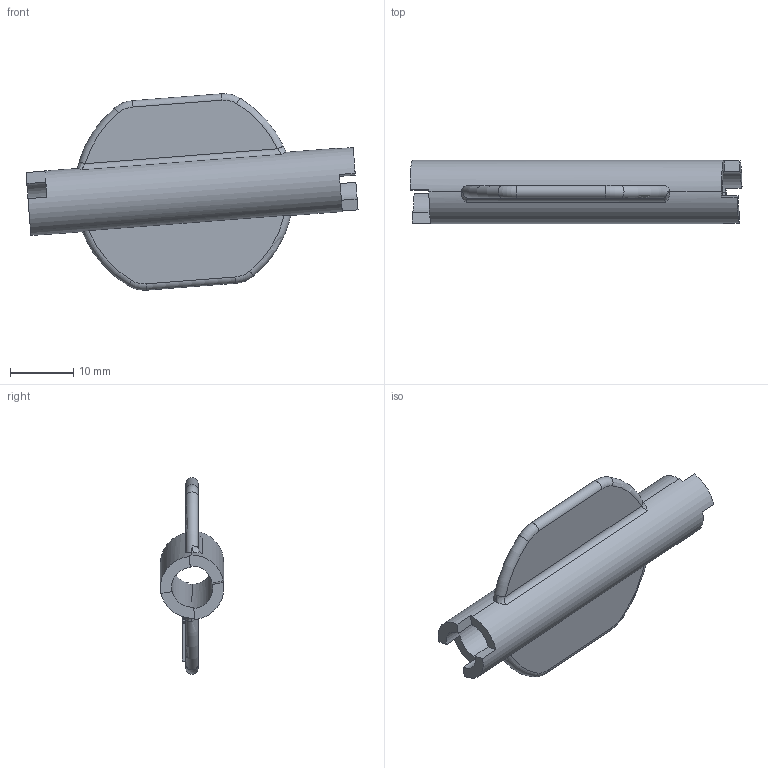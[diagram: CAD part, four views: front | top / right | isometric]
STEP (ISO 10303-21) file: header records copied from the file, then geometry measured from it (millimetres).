
FILE_DESCRIPTION((''),'2;1');
FILE_NAME('0000237112_PRT','2025-11-12T18:33:30',('Wyndorps'),(''),'CREO PARAMETRIC BY PTC INC, 2025010','CREO PARAMETRIC BY PTC INC, 2025010','');
FILE_SCHEMA(('CONFIG_CONTROL_DESIGN'));
Length unit declared in the file: millimetre
Products named in the file (1): 0000237112_PRT
Bounding box: 52.36 x 10 x 30.96 mm (x, y, z)
Volume: 3288 mm3; surface area: 3742.6 mm2
Topology: 1 solids, 1 shells, 85 faces, 232 edges, 152 vertices
Faces by surface type: plane 59, cylinder 12, torus 8, bspline 4, extrusion 2
Entity records: 3055 total; most frequent: CARTESIAN_POINT 868, ORIENTED_EDGE 464, DIRECTION 424, EDGE_CURVE 232, VECTOR 154, LINE 152, VERTEX_POINT 152, AXIS2_PLACEMENT_3D 135
